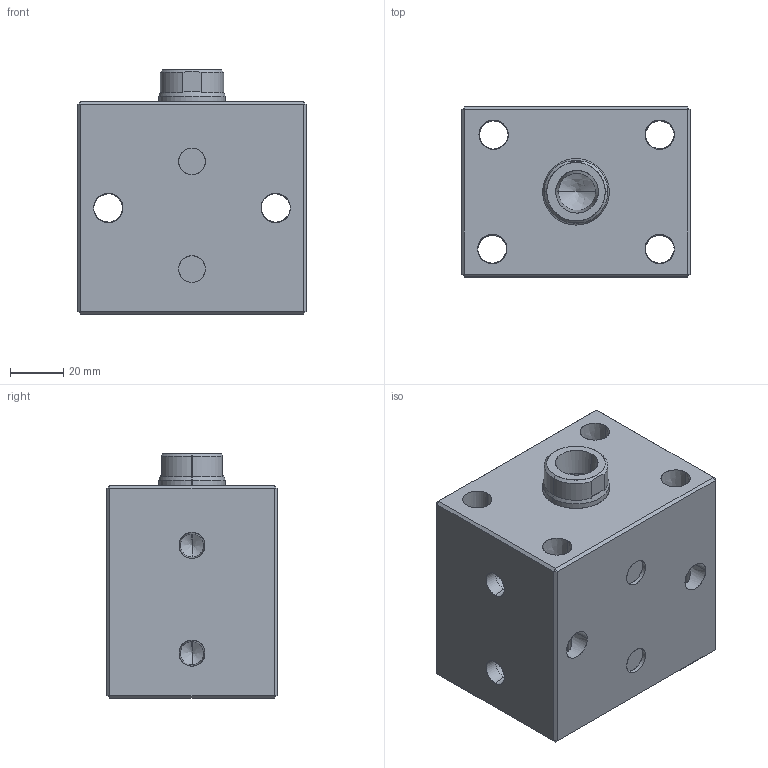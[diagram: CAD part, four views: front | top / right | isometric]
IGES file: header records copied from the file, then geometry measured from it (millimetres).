
Start section: SolidWorks IGES file using analytic representation for surfaces
Global section: file name: E:\ALL-SSVT-BLOCK\40-BORE-IGS-MODEL\BC04-40-25.IGS; native system: SolidWorks 2019; preprocessor: SolidWorks 2019; author: SSVT; date: 210825.144430; units: millimetre
Bounding box: 86 x 64 x 92 mm (x, y, z)
Surface area: 59024.4 mm2 (no closed solid volume)
Topology: 0 solids, 0 shells, 92 faces, 1688 edges, 1682 vertices
Faces by surface type: revolution 57, bspline 35
